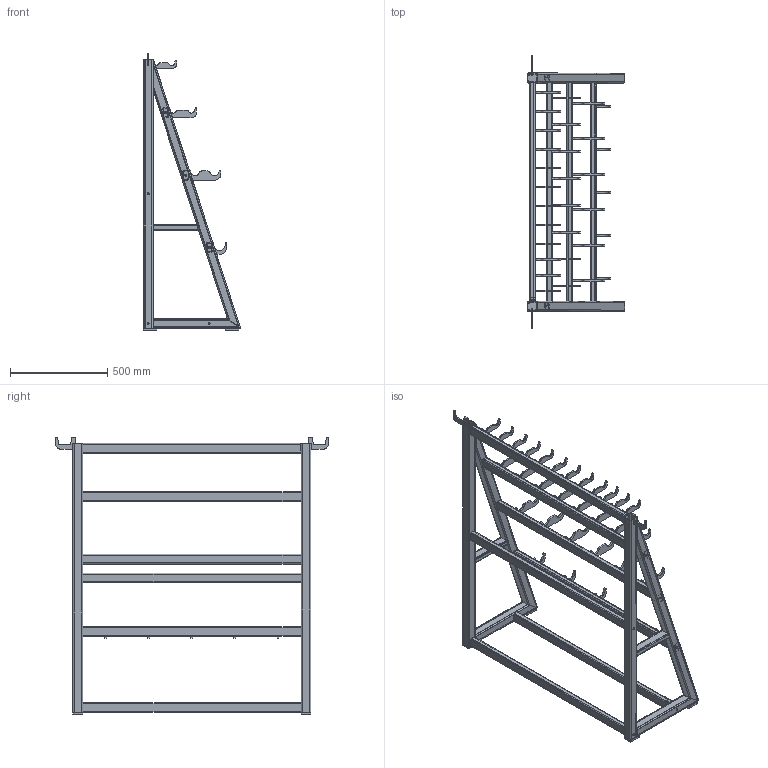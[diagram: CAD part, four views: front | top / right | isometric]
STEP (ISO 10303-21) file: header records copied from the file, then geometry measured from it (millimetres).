
FILE_DESCRIPTION(/* description */ (''),/* implementation_level */ '2;1');
FILE_NAME(/* name */ 'PD-jia zi.stp',/* time_stamp */ '2025-04-02T10:45:45+08:00',/* author */ (''),/* organization */ (''),/* preprocessor_version */ 'ST-DEVELOPER v16',/* originating_system */ 'SIEMENS PLM Software NX 10.0',/* authorisation */ '');
FILE_SCHEMA (('AP203_CONFIGURATION_CONTROLLED_3D_DESIGN_OF_MECHANICAL_PARTS_AND_ASSEMBLIES_MIM_LF { 1 0 10303 403 2 1 2}'));
Length unit declared in the file: millimetre
Products named in the file (1): Admi177C9AD32i4v
Bounding box: 500.17 x 1396.54 x 1421 mm (x, y, z)
Volume: 9466971.1 mm3; surface area: 4998609.8 mm2
Topology: 52 solids, 52 shells, 1309 faces, 3712 edges, 2483 vertices
Faces by surface type: plane 658, cylinder 549, extrusion 102
Full cylindrical faces by diameter (mm): 6.5 x23, 9.5 x10, 10 x8
Entity records: 44075 total; most frequent: CARTESIAN_POINT 9470, ORIENTED_EDGE 7292, DIRECTION 7016, EDGE_CURVE 3646, VERTEX_POINT 2458, AXIS2_PLACEMENT_3D 2343, VECTOR 2330, LINE 2228
